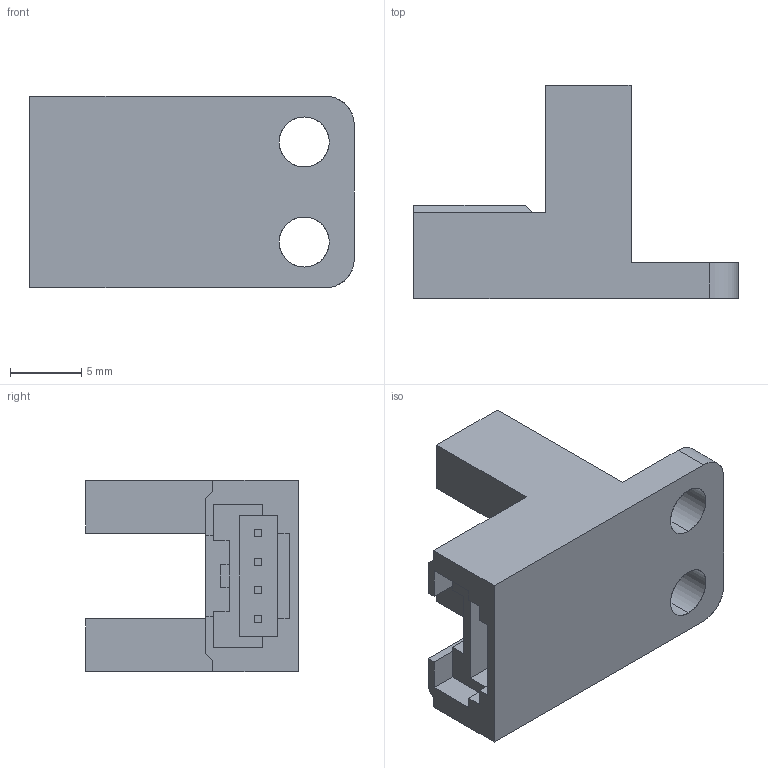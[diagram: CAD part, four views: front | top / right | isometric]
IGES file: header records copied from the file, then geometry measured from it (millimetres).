
Start section: SolidWorks IGES file using analytic representation for surfaces
Global section: file name: C:\catalog\pm-y65.IGS; native system: SolidWorks 2010; preprocessor: SolidWorks 2010; author: C0278; date: 150807.172029; units: millimetre
Bounding box: 22.7 x 14.9 x 13.4 mm (x, y, z)
Surface area: 1531 mm2 (no closed solid volume)
Topology: 0 solids, 0 shells, 107 faces, 716 edges, 716 vertices
Faces by surface type: bspline 101, revolution 6
